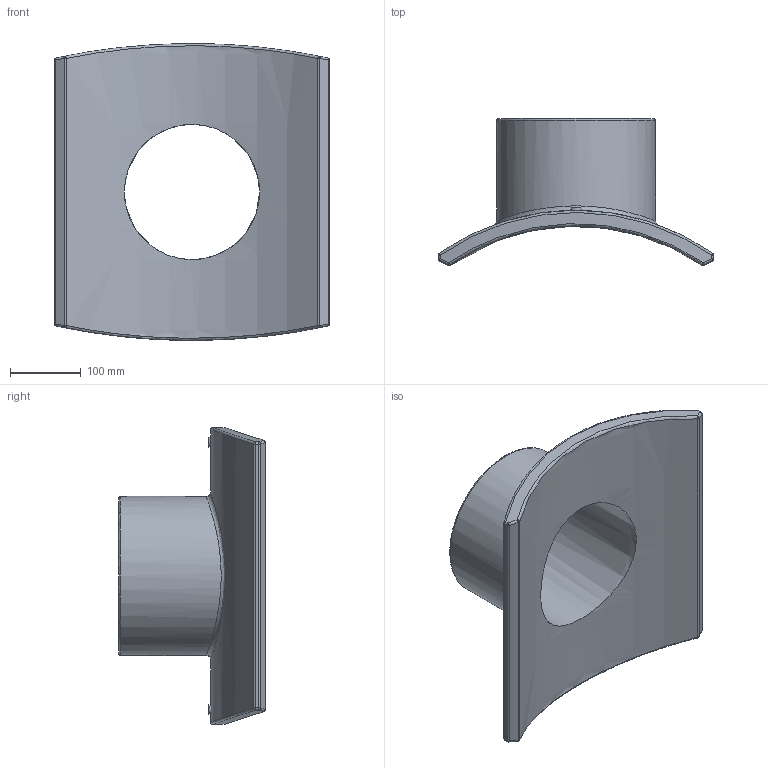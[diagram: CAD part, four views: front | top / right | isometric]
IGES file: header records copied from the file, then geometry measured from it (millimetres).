
Global section: file name: 4758W4630225.ipt; native system: Autodesk Inventor 2015; preprocessor: unknown; author: KIM; date: 20180416.104041; units: millimetre
Bounding box: 389 x 207.5 x 419.99 mm (x, y, z)
Volume: 4491438 mm3; surface area: 492460.2 mm2
Topology: 2 solids, 2 shells, 56 faces, 108 edges, 62 vertices
Faces by surface type: cylinder 16, sphere 12, plane 11, bspline 9, revolution 6, cone 2
Full cylindrical faces by diameter (mm): 4 x2, 225 x1
